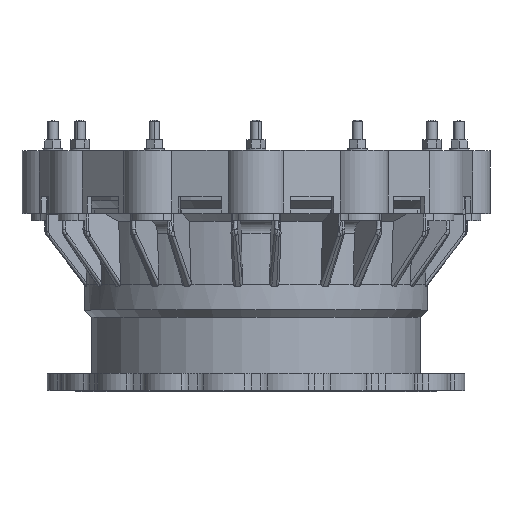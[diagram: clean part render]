
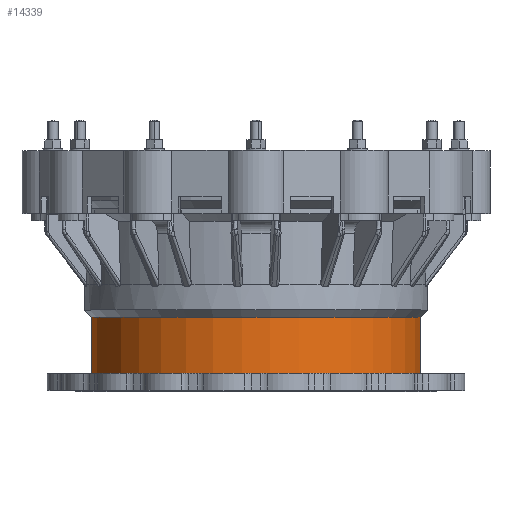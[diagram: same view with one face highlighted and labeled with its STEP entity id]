
A CAD part, top view. The second image highlights one B-rep face of the part: STEP entity #14339.
In plain terms, the highlighted cylindrical face has radius 250 mm (diameter 500 mm), a partial arc.
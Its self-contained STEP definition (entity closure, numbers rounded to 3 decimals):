
#2146=DIRECTION('',(0.,1.,0.));
#2147=VECTOR('',#2146,85.476);
#2148=CARTESIAN_POINT('',(241.481,-99.5,-64.705));
#2149=LINE('',#2148,#2147);
#2150=CARTESIAN_POINT('',(0.,-99.5,0.));
#2151=DIRECTION('',(0.,-1.,0.));
#2152=DIRECTION('',(0.966,0.,-0.259));
#2153=AXIS2_PLACEMENT_3D('',#2150,#2151,#2152);
#2155=DIRECTION('',(0.,-1.,0.));
#2156=VECTOR('',#2155,85.476);
#2157=CARTESIAN_POINT('',(176.777,-14.024,
-176.777));
#2158=LINE('',#2157,#2156);
#2182=CARTESIAN_POINT('',(0.,-14.024,0.));
#2183=DIRECTION('',(0.,-1.,0.));
#2184=DIRECTION('',(0.966,0.,-0.259));
#2185=AXIS2_PLACEMENT_3D('',#2182,#2183,#2184);
#10868=CARTESIAN_POINT('',(241.481,-99.5,-64.705));
#10869=CARTESIAN_POINT('',(241.481,-14.024,
-64.705));
#10870=VERTEX_POINT('',#10868);
#10871=VERTEX_POINT('',#10869);
#10876=CARTESIAN_POINT('',(176.777,-99.5,-176.777));
#10877=VERTEX_POINT('',#10876);
#10880=CARTESIAN_POINT('',(176.777,-14.024,
-176.777));
#10881=VERTEX_POINT('',#10880);
#14325=CARTESIAN_POINT('',(0.,163.75,0.));
#14326=DIRECTION('',(0.,-1.,0.));
#14327=DIRECTION('',(-1.,0.,0.));
#14328=AXIS2_PLACEMENT_3D('',#14325,#14326,#14327);
#14329=CYLINDRICAL_SURFACE('',#14328,250.);
#14331=ORIENTED_EDGE('',*,*,#14330,.F.);
#14332=ORIENTED_EDGE('',*,*,#14079,.T.);
#14334=ORIENTED_EDGE('',*,*,#14333,.F.);
#14336=ORIENTED_EDGE('',*,*,#14335,.F.);
#14337=EDGE_LOOP('',(#14331,#14332,#14334,#14336));
#14338=FACE_OUTER_BOUND('',#14337,.F.);
#14339=ADVANCED_FACE('',(#14338),#14329,.T.);
#2154=CIRCLE('',#2153,250.);
#2186=CIRCLE('',#2185,250.);
#14079=EDGE_CURVE('',#10870,#10877,#2154,.T.);
#14330=EDGE_CURVE('',#10870,#10871,#2149,.T.);
#14333=EDGE_CURVE('',#10881,#10877,#2158,.T.);
#14335=EDGE_CURVE('',#10871,#10881,#2186,.T.);
